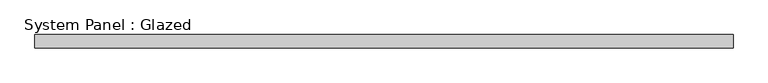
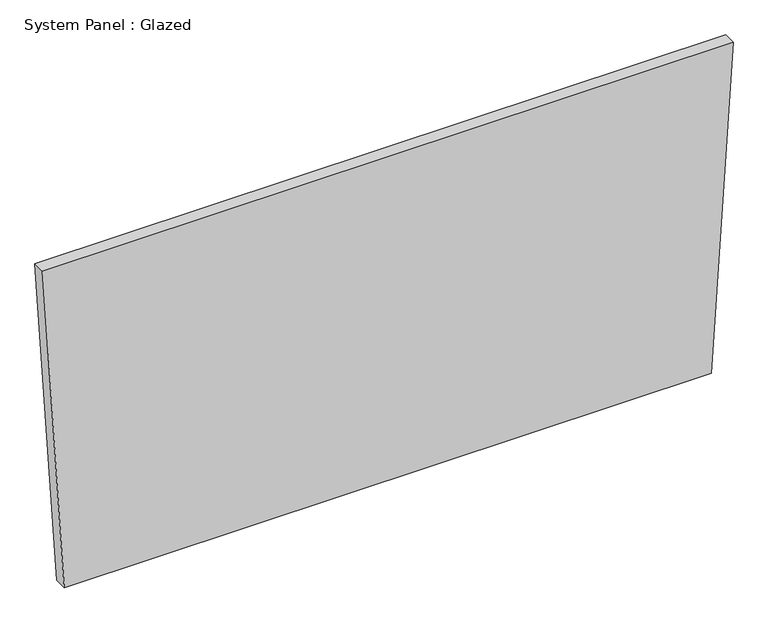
"""IFC4 building model written with IfcOpenShell, lengths in millimetres: plate geometry, System Panel : Glazed."""

from ifc_helpers import new_model, si_unit, frame, origin, place, context, project, spatial, polyline, outline, extrude, source, transform, mapped, element, save


def system_panel_glazed_b52af536(model_context):
    return source(origin(), model_context, "Body", "SweptSolid", [
        extrude(outline(polyline([(0.000216, -627.9748966), (0.0, 627.9748975), (663.8578984, 669.8877346), (663.8581289, -669.8877346), (0.000216, -627.9748966)])), frame((0.0, 19.05, 0.0), z_axis=(0.0, 1.0, 0.0), x_axis=(0.0, 0.0, 1.0)), (0.0, 0.0, 1.0), 25.4),
    ])


if __name__ == "__main__":
    model = new_model("IFC4")
    model_context = context("Model", 3, world=origin())
    ifc_project = project(units=[si_unit("LENGTHUNIT", "METRE", prefix="MILLI")], contexts=[model_context])
    site = spatial("IfcSite", under=ifc_project)
    building = spatial("IfcBuilding", under=site)
    placement = place(None, origin())
    system_panel_glazed_shape = system_panel_glazed_b52af536(model_context)
    element("IfcPlate", 1, ObjectType="System Panel : Glazed", at=placement, inside=building, context=model_context, shape_type="MappedRepresentation", body=[
        mapped(system_panel_glazed_shape, transform((0.0, 0.0, 0.0), x_axis=(1.0, 0.0, 0.0), y_axis=(0.0, 1.0, 0.0), z_axis=(0.0, 0.0, 1.0))),
    ])
    save(model, "model.ifc")
